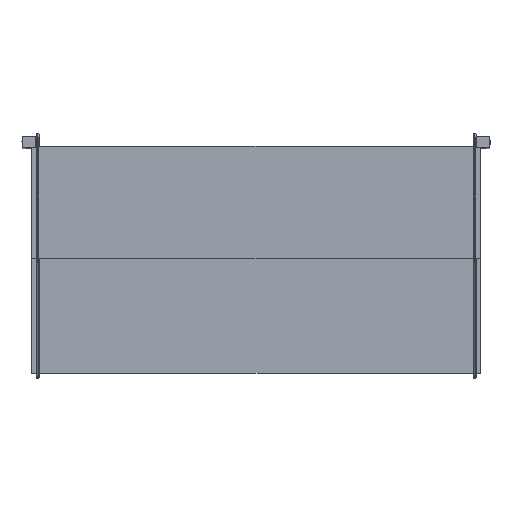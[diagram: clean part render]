
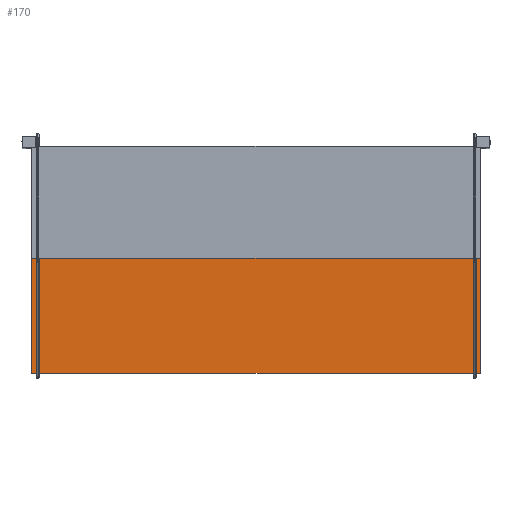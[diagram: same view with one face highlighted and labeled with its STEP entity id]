
A CAD part, top view. The second image highlights one B-rep face of the part: STEP entity #170.
In plain terms, the highlighted planar face has unit normal (0, 0, 1).
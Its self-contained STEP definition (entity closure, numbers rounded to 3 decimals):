
#170=ADVANCED_FACE('',(#472),#4618,.T.);
#472=FACE_OUTER_BOUND('',#774,.T.);
#774=EDGE_LOOP('',(#1396,#1397,#1398,#1399));
#1396=ORIENTED_EDGE('',*,*,#2764,.T.);
#1397=ORIENTED_EDGE('',*,*,#2765,.T.);
#1398=ORIENTED_EDGE('',*,*,#2766,.F.);
#1399=ORIENTED_EDGE('',*,*,#2767,.F.);
#2764=EDGE_CURVE('',#4228,#4229,#3414,.T.);
#2765=EDGE_CURVE('',#4229,#4230,#3415,.T.);
#2766=EDGE_CURVE('',#4231,#4230,#3416,.T.);
#2767=EDGE_CURVE('',#4228,#4231,#3417,.T.);
#3414=B_SPLINE_CURVE_WITH_KNOTS('',1,(#6812,#6813),.UNSPECIFIED.,.F.,.F.,
(2,2),(-832.,-432.),.UNSPECIFIED.);
#3415=B_SPLINE_CURVE_WITH_KNOTS('',1,(#6814,#6815),.UNSPECIFIED.,.F.,.F.,
(2,2),(0.,800.),.UNSPECIFIED.);
#3416=B_SPLINE_CURVE_WITH_KNOTS('',1,(#6816,#6817),.UNSPECIFIED.,.F.,.F.,
(2,2),(-832.,-432.),.UNSPECIFIED.);
#3417=B_SPLINE_CURVE_WITH_KNOTS('',1,(#6818,#6819),.UNSPECIFIED.,.F.,.F.,
(2,2),(0.,800.),.UNSPECIFIED.);
#4228=VERTEX_POINT('',#6804);
#4229=VERTEX_POINT('',#6805);
#4230=VERTEX_POINT('',#6806);
#4231=VERTEX_POINT('',#6807);
#4618=PLANE('',#5028);
#5028=AXIS2_PLACEMENT_3D('',#6798,#5261,$);
#5261=DIRECTION('',(0.,0.,1.));
#6798=CARTESIAN_POINT('',(-400.,190.394,266.));
#6804=CARTESIAN_POINT('',(-400.,190.394,266.));
#6805=CARTESIAN_POINT('',(-400.,-209.606,266.));
#6806=CARTESIAN_POINT('',(400.,-209.606,266.));
#6807=CARTESIAN_POINT('',(400.,190.394,266.));
#6812=CARTESIAN_POINT('',(-400.,190.394,266.));
#6813=CARTESIAN_POINT('',(-400.,-209.606,266.));
#6814=CARTESIAN_POINT('',(-400.,-209.606,266.));
#6815=CARTESIAN_POINT('',(400.,-209.606,266.));
#6816=CARTESIAN_POINT('',(400.,190.394,266.));
#6817=CARTESIAN_POINT('',(400.,-209.606,266.));
#6818=CARTESIAN_POINT('',(-400.,190.394,266.));
#6819=CARTESIAN_POINT('',(400.,190.394,266.));
